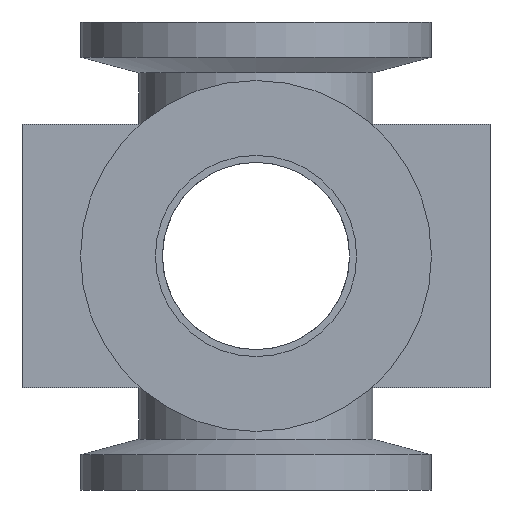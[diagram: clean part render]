
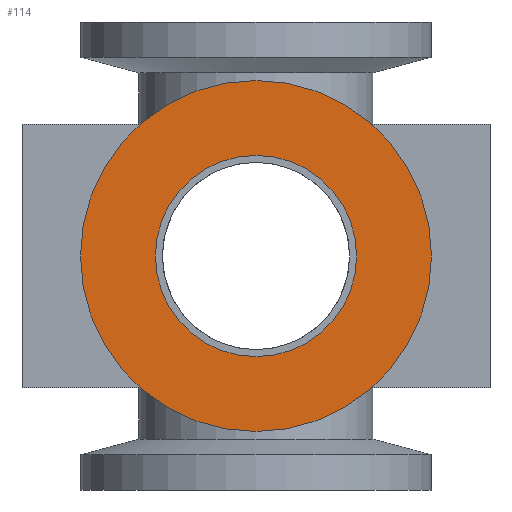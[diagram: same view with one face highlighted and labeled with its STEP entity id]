
A CAD part, left-side view. The second image highlights one B-rep face of the part: STEP entity #114.
In plain terms, the highlighted planar face has unit normal (-1, 0, 0).
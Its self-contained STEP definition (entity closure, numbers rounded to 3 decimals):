
#114 = ADVANCED_FACE( '', ( #253, #254 ), #255, .T. );
#253 = FACE_BOUND( '', #394, .T. );
#254 = FACE_OUTER_BOUND( '', #395, .T. );
#255 = PLANE( '', #396 );
#394 = EDGE_LOOP( '', ( #603 ) );
#395 = EDGE_LOOP( '', ( #604 ) );
#396 = AXIS2_PLACEMENT_3D( '', #605, #606, #607 );
#603 = ORIENTED_EDGE( '', *, *, #713, .T. );
#604 = ORIENTED_EDGE( '', *, *, #698, .F. );
#605 = CARTESIAN_POINT( '', ( -40., -15., 0. ) );
#606 = DIRECTION( '', ( -1., 0., 0. ) );
#607 = DIRECTION( '', ( 0., 0., 1. ) );
#698 = EDGE_CURVE( '', #809, #809, #810, .T. );
#713 = EDGE_CURVE( '', #827, #827, #828, .T. );
#809 = VERTEX_POINT( '', #932 );
#810 = CIRCLE( '', #933, 15. );
#827 = VERTEX_POINT( '', #955 );
#828 = CIRCLE( '', #956, 8.6 );
#932 = CARTESIAN_POINT( '', ( -40., 0., -15. ) );
#933 = AXIS2_PLACEMENT_3D( '', #1055, #1056, #1057 );
#955 = CARTESIAN_POINT( '', ( -40., 0., -8.6 ) );
#956 = AXIS2_PLACEMENT_3D( '', #1066, #1067, #1068 );
#1055 = CARTESIAN_POINT( '', ( -40., 0., 0. ) );
#1056 = DIRECTION( '', ( 1., 0., 0. ) );
#1057 = DIRECTION( '', ( 0., 0., -1. ) );
#1066 = CARTESIAN_POINT( '', ( -40., 0., 0. ) );
#1067 = DIRECTION( '', ( 1., 0., 0. ) );
#1068 = DIRECTION( '', ( 0., 0., -1. ) );
